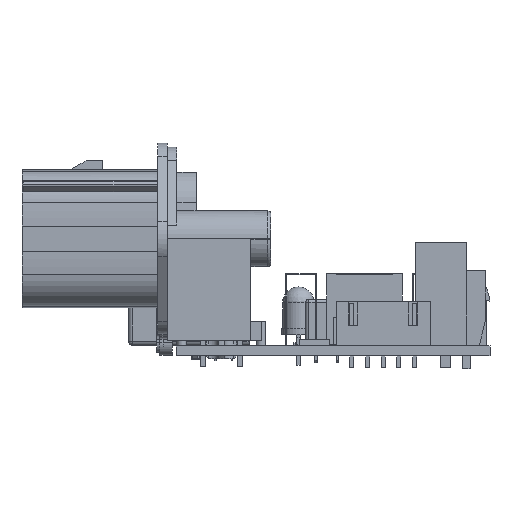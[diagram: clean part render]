
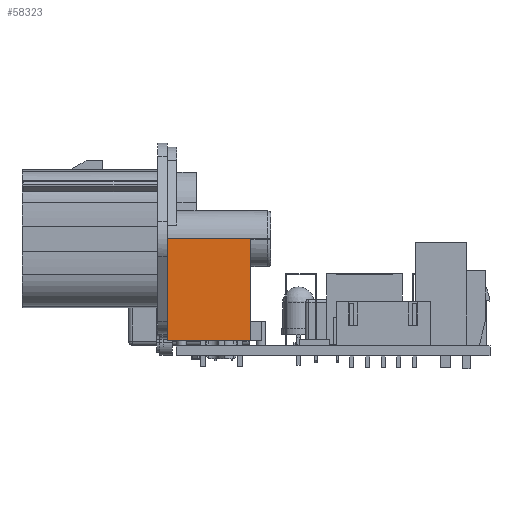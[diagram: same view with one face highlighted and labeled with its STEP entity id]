
A CAD part, front view. The second image highlights one B-rep face of the part: STEP entity #58323.
In plain terms, the highlighted planar face has unit normal (0, -1, 0).
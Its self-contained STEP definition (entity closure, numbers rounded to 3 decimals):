
#58185 = EDGE_CURVE('',#58186,#58188,#58190,.T.);
#58186 = VERTEX_POINT('',#58187);
#58187 = CARTESIAN_POINT('',(14.589,2.395,
    17.026));
#58188 = VERTEX_POINT('',#58189);
#58189 = CARTESIAN_POINT('',(11.9,2.395,
    17.026));
#58190 = LINE('',#58191,#58192);
#58191 = CARTESIAN_POINT('',(14.589,2.395,
    17.026));
#58192 = VECTOR('',#58193,1.);
#58193 = DIRECTION('',(-1.,0.,0.));
#58222 = VERTEX_POINT('',#58223);
#58223 = CARTESIAN_POINT('',(-1.413,2.395,
    17.086));
#58230 = EDGE_CURVE('',#58222,#58231,#58233,.T.);
#58231 = VERTEX_POINT('',#58232);
#58232 = CARTESIAN_POINT('',(14.589,2.395,
    17.086));
#58233 = LINE('',#58234,#58235);
#58234 = CARTESIAN_POINT('',(-1.413,2.395,
    17.086));
#58235 = VECTOR('',#58236,1.);
#58236 = DIRECTION('',(1.,0.,0.));
#58313 = EDGE_CURVE('',#58231,#58186,#58314,.T.);
#58314 = LINE('',#58315,#58316);
#58315 = CARTESIAN_POINT('',(14.589,2.395,
    17.086));
#58316 = VECTOR('',#58317,1.);
#58317 = DIRECTION('',(0.,0.,-1.));
#58323 = ADVANCED_FACE('',(#58324),#58359,.F.);
#58324 = FACE_BOUND('',#58325,.F.);
#58325 = EDGE_LOOP('',(#58326,#58327,#58328,#58336,#58344,#58352,#58358)
  );
#58326 = ORIENTED_EDGE('',*,*,#58313,.T.);
#58327 = ORIENTED_EDGE('',*,*,#58185,.T.);
#58328 = ORIENTED_EDGE('',*,*,#58329,.T.);
#58329 = EDGE_CURVE('',#58188,#58330,#58332,.T.);
#58330 = VERTEX_POINT('',#58331);
#58331 = CARTESIAN_POINT('',(11.9,2.395,0.8)
  );
#58332 = LINE('',#58333,#58334);
#58333 = CARTESIAN_POINT('',(11.9,2.395,
    17.026));
#58334 = VECTOR('',#58335,1.);
#58335 = DIRECTION('',(0.,0.,-1.));
#58336 = ORIENTED_EDGE('',*,*,#58337,.T.);
#58337 = EDGE_CURVE('',#58330,#58338,#58340,.T.);
#58338 = VERTEX_POINT('',#58339);
#58339 = CARTESIAN_POINT('',(-1.413,2.395,
    0.8));
#58340 = LINE('',#58341,#58342);
#58341 = CARTESIAN_POINT('',(11.9,2.395,0.8)
  );
#58342 = VECTOR('',#58343,1.);
#58343 = DIRECTION('',(-1.,0.,0.));
#58344 = ORIENTED_EDGE('',*,*,#58345,.T.);
#58345 = EDGE_CURVE('',#58338,#58346,#58348,.T.);
#58346 = VERTEX_POINT('',#58347);
#58347 = CARTESIAN_POINT('',(-1.413,2.395,
    14.6));
#58348 = LINE('',#58349,#58350);
#58349 = CARTESIAN_POINT('',(-1.413,2.395,
    0.8));
#58350 = VECTOR('',#58351,1.);
#58351 = DIRECTION('',(0.,0.,1.));
#58352 = ORIENTED_EDGE('',*,*,#58353,.T.);
#58353 = EDGE_CURVE('',#58346,#58222,#58354,.T.);
#58354 = LINE('',#58355,#58356);
#58355 = CARTESIAN_POINT('',(-1.413,2.395,
    14.6));
#58356 = VECTOR('',#58357,1.);
#58357 = DIRECTION('',(0.,0.,1.));
#58358 = ORIENTED_EDGE('',*,*,#58230,.T.);
#58359 = PLANE('',#58360);
#58360 = AXIS2_PLACEMENT_3D('',#58361,#58362,#58363);
#58361 = CARTESIAN_POINT('',(-3.064,2.395,
    29.199));
#58362 = DIRECTION('',(0.,1.,0.));
#58363 = DIRECTION('',(0.,0.,-1.));
